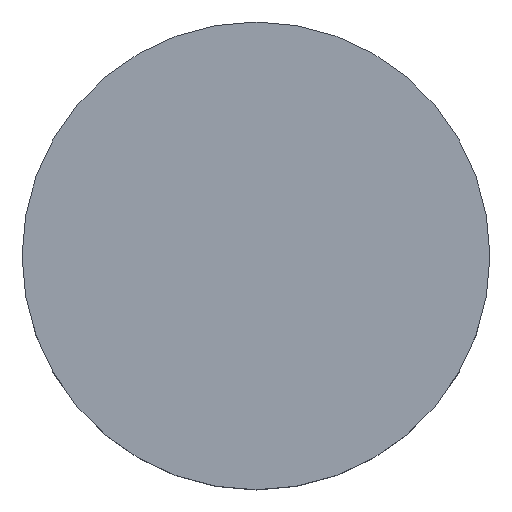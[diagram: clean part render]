
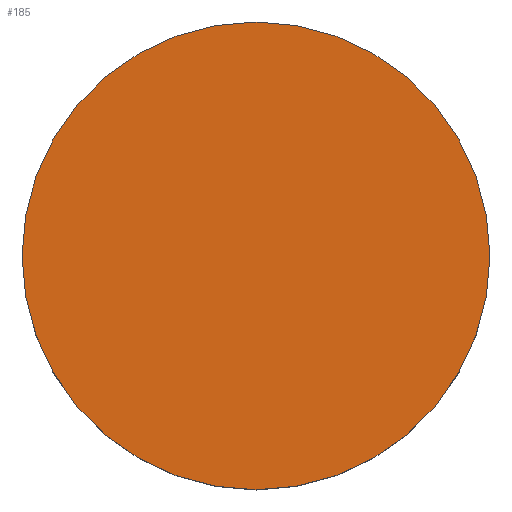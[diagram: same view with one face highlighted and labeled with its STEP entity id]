
A CAD part, top view. The second image highlights one B-rep face of the part: STEP entity #185.
In plain terms, the highlighted planar face has unit normal (0, 0, 1).
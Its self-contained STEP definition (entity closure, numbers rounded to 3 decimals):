
#185=ADVANCED_FACE('',(#233),#222,.T.);
#222=PLANE('',#622);
#233=FACE_OUTER_BOUND('',#261,.T.);
#261=EDGE_LOOP('',(#307,#308));
#307=ORIENTED_EDGE('',*,*,#497,.F.);
#308=ORIENTED_EDGE('',*,*,#498,.F.);
#451=VERTEX_POINT('',#907);
#452=VERTEX_POINT('',#908);
#497=EDGE_CURVE('',#451,#452,#569,.T.);
#498=EDGE_CURVE('',#452,#451,#570,.T.);
#569=CIRCLE('',#620,9.5);
#570=CIRCLE('',#621,9.5);
#620=AXIS2_PLACEMENT_3D('',#906,#709,#710);
#621=AXIS2_PLACEMENT_3D('',#909,#711,#712);
#622=AXIS2_PLACEMENT_3D('',#910,#713,#714);
#709=DIRECTION('',(0.,0.,-1.));
#710=DIRECTION('',(0.,1.,0.));
#711=DIRECTION('',(0.,0.,-1.));
#712=DIRECTION('',(0.,-1.,0.));
#713=DIRECTION('',(0.,0.,1.));
#714=DIRECTION('',(0.,-1.,0.));
#906=CARTESIAN_POINT('',(0.,0.,5.));
#907=CARTESIAN_POINT('',(9.5,0.,5.));
#908=CARTESIAN_POINT('',(-9.5,0.,5.));
#909=CARTESIAN_POINT('',(0.,0.,5.));
#910=CARTESIAN_POINT('',(0.,0.,5.));
